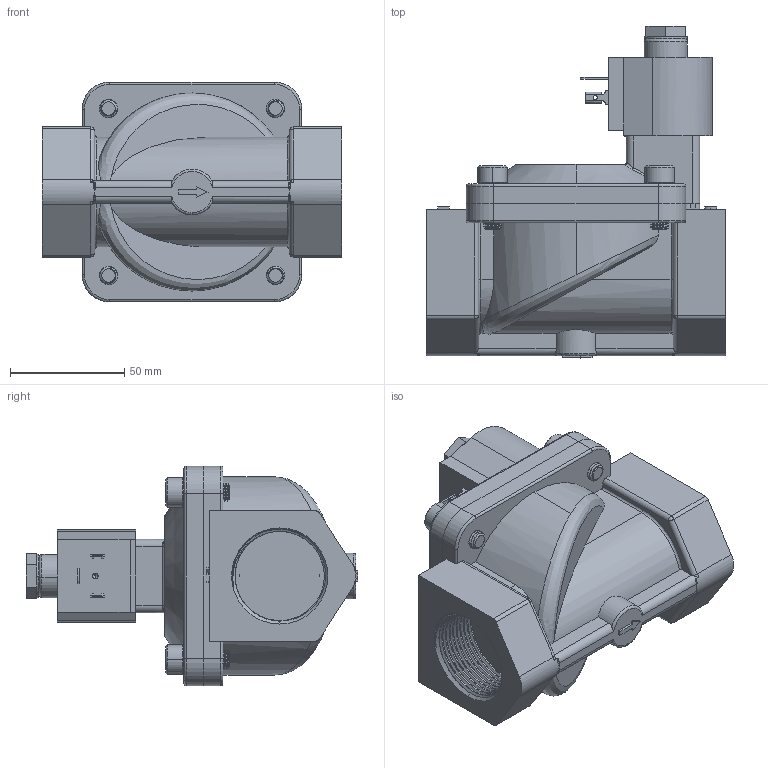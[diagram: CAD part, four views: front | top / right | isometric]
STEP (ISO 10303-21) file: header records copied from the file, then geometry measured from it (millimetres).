
FILE_DESCRIPTION (( 'STEP AP203' ), '1' );
FILE_NAME ('S712Yxxxx9GJ2.STEP', '2024-12-23T19:55:42', ( '' ), ( '' ), 'SwSTEP 2.0', 'SolidWorks 2023', '' );
FILE_SCHEMA (( 'CONFIG_CONTROL_DESIGN' ));
Length unit declared in the file: millimetre
Products named in the file (1): S712Yxxxx9GJ2
Bounding box: 131 x 145.01 x 96 mm (x, y, z)
Volume: 598299.4 mm3; surface area: 75731 mm2
Topology: 1 solids, 3 shells, 574 faces, 1460 edges, 905 vertices
Faces by surface type: plane 215, cylinder 202, bspline 90, cone 65, torus 2
Entity records: 31112 total; most frequent: CARTESIAN_POINT 18410, ORIENTED_EDGE 2888, DIRECTION 2344, EDGE_CURVE 1444, VERTEX_POINT 905, AXIS2_PLACEMENT_3D 821, LINE 702, VECTOR 702
